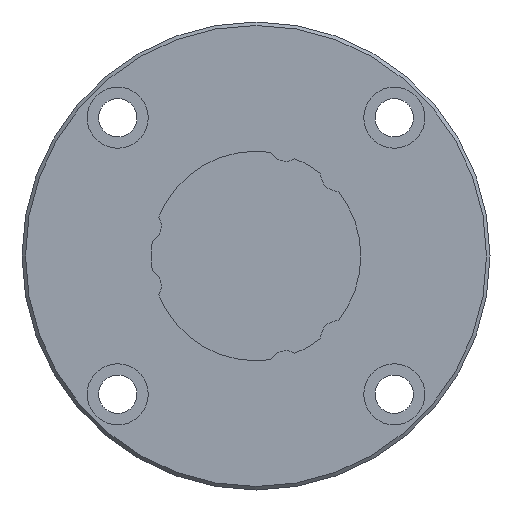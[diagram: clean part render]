
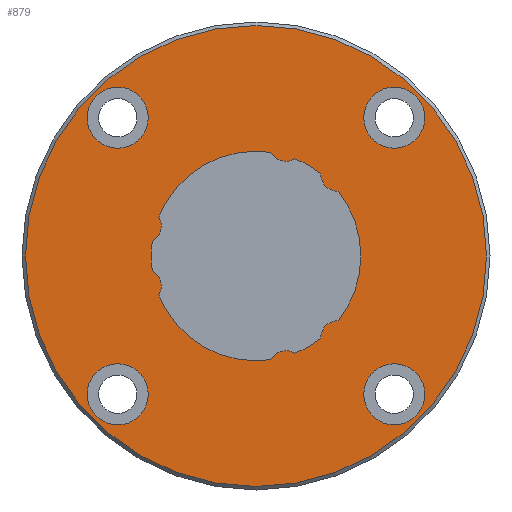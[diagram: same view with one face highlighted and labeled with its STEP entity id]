
A CAD part, left-side view. The second image highlights one B-rep face of the part: STEP entity #879.
In plain terms, the highlighted planar face has unit normal (-1, 0, 0).
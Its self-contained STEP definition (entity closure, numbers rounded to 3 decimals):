
#55=PLANE('',#986);
#192=ORIENTED_EDGE('',*,*,#394,.F.);
#193=ORIENTED_EDGE('',*,*,#395,.F.);
#194=ORIENTED_EDGE('',*,*,#396,.F.);
#195=ORIENTED_EDGE('',*,*,#397,.F.);
#196=ORIENTED_EDGE('',*,*,#398,.F.);
#197=ORIENTED_EDGE('',*,*,#399,.T.);
#198=ORIENTED_EDGE('',*,*,#400,.F.);
#199=ORIENTED_EDGE('',*,*,#401,.T.);
#200=ORIENTED_EDGE('',*,*,#402,.F.);
#201=ORIENTED_EDGE('',*,*,#403,.T.);
#202=ORIENTED_EDGE('',*,*,#404,.F.);
#203=ORIENTED_EDGE('',*,*,#405,.T.);
#204=ORIENTED_EDGE('',*,*,#406,.F.);
#205=ORIENTED_EDGE('',*,*,#407,.T.);
#206=ORIENTED_EDGE('',*,*,#408,.F.);
#207=ORIENTED_EDGE('',*,*,#409,.T.);
#208=ORIENTED_EDGE('',*,*,#410,.F.);
#394=EDGE_CURVE('',#501,#501,#580,.T.);
#395=EDGE_CURVE('',#502,#502,#581,.F.);
#396=EDGE_CURVE('',#503,#503,#582,.F.);
#397=EDGE_CURVE('',#504,#504,#583,.F.);
#398=EDGE_CURVE('',#505,#505,#584,.F.);
#399=EDGE_CURVE('',#506,#507,#585,.T.);
#400=EDGE_CURVE('',#508,#507,#586,.T.);
#401=EDGE_CURVE('',#508,#509,#587,.T.);
#402=EDGE_CURVE('',#510,#509,#588,.T.);
#403=EDGE_CURVE('',#510,#511,#589,.T.);
#404=EDGE_CURVE('',#512,#511,#590,.T.);
#405=EDGE_CURVE('',#512,#513,#591,.T.);
#406=EDGE_CURVE('',#514,#513,#592,.T.);
#407=EDGE_CURVE('',#514,#515,#593,.T.);
#408=EDGE_CURVE('',#516,#515,#594,.T.);
#409=EDGE_CURVE('',#516,#517,#595,.T.);
#410=EDGE_CURVE('',#506,#517,#596,.T.);
#501=VERTEX_POINT('',#1541);
#502=VERTEX_POINT('',#1543);
#503=VERTEX_POINT('',#1545);
#504=VERTEX_POINT('',#1547);
#505=VERTEX_POINT('',#1549);
#506=VERTEX_POINT('',#1551);
#507=VERTEX_POINT('',#1552);
#508=VERTEX_POINT('',#1554);
#509=VERTEX_POINT('',#1556);
#510=VERTEX_POINT('',#1558);
#511=VERTEX_POINT('',#1560);
#512=VERTEX_POINT('',#1562);
#513=VERTEX_POINT('',#1564);
#514=VERTEX_POINT('',#1566);
#515=VERTEX_POINT('',#1568);
#516=VERTEX_POINT('',#1570);
#517=VERTEX_POINT('',#1572);
#580=CIRCLE('',#987,66.);
#581=CIRCLE('',#988,8.75);
#582=CIRCLE('',#989,8.75);
#583=CIRCLE('',#990,8.75);
#584=CIRCLE('',#991,8.75);
#585=CIRCLE('',#992,30.);
#586=CIRCLE('',#993,4.9);
#587=CIRCLE('',#994,30.);
#588=CIRCLE('',#995,4.9);
#589=CIRCLE('',#996,30.);
#590=CIRCLE('',#997,4.9);
#591=CIRCLE('',#998,30.);
#592=CIRCLE('',#999,4.9);
#593=CIRCLE('',#1000,30.);
#594=CIRCLE('',#1001,4.9);
#595=CIRCLE('',#1002,30.);
#596=CIRCLE('',#1003,4.9);
#654=EDGE_LOOP('',(#192));
#655=EDGE_LOOP('',(#193));
#656=EDGE_LOOP('',(#194));
#657=EDGE_LOOP('',(#195));
#658=EDGE_LOOP('',(#196));
#659=EDGE_LOOP('',(#197,#198,#199,#200,#201,#202,#203,#204,#205,#206,#207,
#208));
#748=FACE_BOUND('',#654,.T.);
#749=FACE_BOUND('',#655,.T.);
#750=FACE_BOUND('',#656,.T.);
#751=FACE_BOUND('',#657,.T.);
#752=FACE_BOUND('',#658,.T.);
#753=FACE_BOUND('',#659,.T.);
#879=ADVANCED_FACE('',(#748,#749,#750,#751,#752,#753),#55,.F.);
#986=AXIS2_PLACEMENT_3D('',#1539,#1179,#1180);
#987=AXIS2_PLACEMENT_3D('',#1540,#1181,#1182);
#988=AXIS2_PLACEMENT_3D('',#1542,#1183,#1184);
#989=AXIS2_PLACEMENT_3D('',#1544,#1185,#1186);
#990=AXIS2_PLACEMENT_3D('',#1546,#1187,#1188);
#991=AXIS2_PLACEMENT_3D('',#1548,#1189,#1190);
#992=AXIS2_PLACEMENT_3D('',#1550,#1191,#1192);
#993=AXIS2_PLACEMENT_3D('',#1553,#1193,#1194);
#994=AXIS2_PLACEMENT_3D('',#1555,#1195,#1196);
#995=AXIS2_PLACEMENT_3D('',#1557,#1197,#1198);
#996=AXIS2_PLACEMENT_3D('',#1559,#1199,#1200);
#997=AXIS2_PLACEMENT_3D('',#1561,#1201,#1202);
#998=AXIS2_PLACEMENT_3D('',#1563,#1203,#1204);
#999=AXIS2_PLACEMENT_3D('',#1565,#1205,#1206);
#1000=AXIS2_PLACEMENT_3D('',#1567,#1207,#1208);
#1001=AXIS2_PLACEMENT_3D('',#1569,#1209,#1210);
#1002=AXIS2_PLACEMENT_3D('',#1571,#1211,#1212);
#1003=AXIS2_PLACEMENT_3D('',#1573,#1213,#1214);
#1179=DIRECTION('',(1.,0.,0.));
#1180=DIRECTION('',(0.,0.,-1.));
#1181=DIRECTION('',(1.,0.,0.));
#1182=DIRECTION('',(0.,0.,-1.));
#1183=DIRECTION('',(1.,0.,0.));
#1184=DIRECTION('',(0.,0.,-1.));
#1185=DIRECTION('',(1.,0.,0.));
#1186=DIRECTION('',(0.,0.,-1.));
#1187=DIRECTION('',(1.,0.,0.));
#1188=DIRECTION('',(0.,0.,-1.));
#1189=DIRECTION('',(1.,0.,0.));
#1190=DIRECTION('',(0.,0.,-1.));
#1191=DIRECTION('',(1.,0.,0.));
#1192=DIRECTION('',(0.,0.,-1.));
#1193=DIRECTION('',(1.,0.,0.));
#1194=DIRECTION('',(0.,0.,-1.));
#1195=DIRECTION('',(1.,0.,0.));
#1196=DIRECTION('',(0.,0.,-1.));
#1197=DIRECTION('',(1.,0.,0.));
#1198=DIRECTION('',(0.,0.,-1.));
#1199=DIRECTION('',(1.,0.,0.));
#1200=DIRECTION('',(0.,0.,-1.));
#1201=DIRECTION('',(1.,0.,0.));
#1202=DIRECTION('',(0.,0.,-1.));
#1203=DIRECTION('',(1.,0.,0.));
#1204=DIRECTION('',(0.,0.,-1.));
#1205=DIRECTION('',(1.,0.,0.));
#1206=DIRECTION('',(0.,0.,-1.));
#1207=DIRECTION('',(1.,0.,0.));
#1208=DIRECTION('',(0.,0.,-1.));
#1209=DIRECTION('',(1.,0.,0.));
#1210=DIRECTION('',(0.,0.,-1.));
#1211=DIRECTION('',(1.,0.,0.));
#1212=DIRECTION('',(0.,0.,-1.));
#1213=DIRECTION('',(1.,0.,0.));
#1214=DIRECTION('',(0.,0.,-1.));
#1539=CARTESIAN_POINT('',(0.,0.,0.));
#1540=CARTESIAN_POINT('',(0.,0.,0.));
#1541=CARTESIAN_POINT('',(0.,0.,-66.));
#1542=CARTESIAN_POINT('',(0.,-39.598,39.598));
#1543=CARTESIAN_POINT('',(0.,-39.598,30.848));
#1544=CARTESIAN_POINT('',(0.,-39.598,-39.598));
#1545=CARTESIAN_POINT('',(0.,-39.598,-48.348));
#1546=CARTESIAN_POINT('',(0.,39.598,-39.598));
#1547=CARTESIAN_POINT('',(0.,39.598,-48.348));
#1548=CARTESIAN_POINT('',(0.,39.598,39.598));
#1549=CARTESIAN_POINT('',(0.,39.598,30.848));
#1550=CARTESIAN_POINT('',(0.,0.,0.));
#1551=CARTESIAN_POINT('',(0.,29.695,-4.267));
#1552=CARTESIAN_POINT('',(0.,29.695,4.267));
#1553=CARTESIAN_POINT('',(0.,32.02,8.58));
#1554=CARTESIAN_POINT('',(0.,27.85,11.152));
#1555=CARTESIAN_POINT('',(0.,0.,0.));
#1556=CARTESIAN_POINT('',(0.,-4.267,29.695));
#1557=CARTESIAN_POINT('',(0.,-8.58,32.02));
#1558=CARTESIAN_POINT('',(0.,-11.152,27.85));
#1559=CARTESIAN_POINT('',(0.,0.,0.));
#1560=CARTESIAN_POINT('',(0.,-18.543,23.583));
#1561=CARTESIAN_POINT('',(0.,-23.441,23.441));
#1562=CARTESIAN_POINT('',(0.,-23.583,18.543));
#1563=CARTESIAN_POINT('',(0.,0.,0.));
#1564=CARTESIAN_POINT('',(0.,-23.583,-18.543));
#1565=CARTESIAN_POINT('',(0.,-23.441,-23.441));
#1566=CARTESIAN_POINT('',(0.,-18.543,-23.583));
#1567=CARTESIAN_POINT('',(0.,0.,0.));
#1568=CARTESIAN_POINT('',(0.,-11.152,-27.85));
#1569=CARTESIAN_POINT('',(0.,-8.58,-32.02));
#1570=CARTESIAN_POINT('',(0.,-4.267,-29.695));
#1571=CARTESIAN_POINT('',(0.,0.,0.));
#1572=CARTESIAN_POINT('',(0.,27.85,-11.152));
#1573=CARTESIAN_POINT('',(0.,32.02,-8.58));
